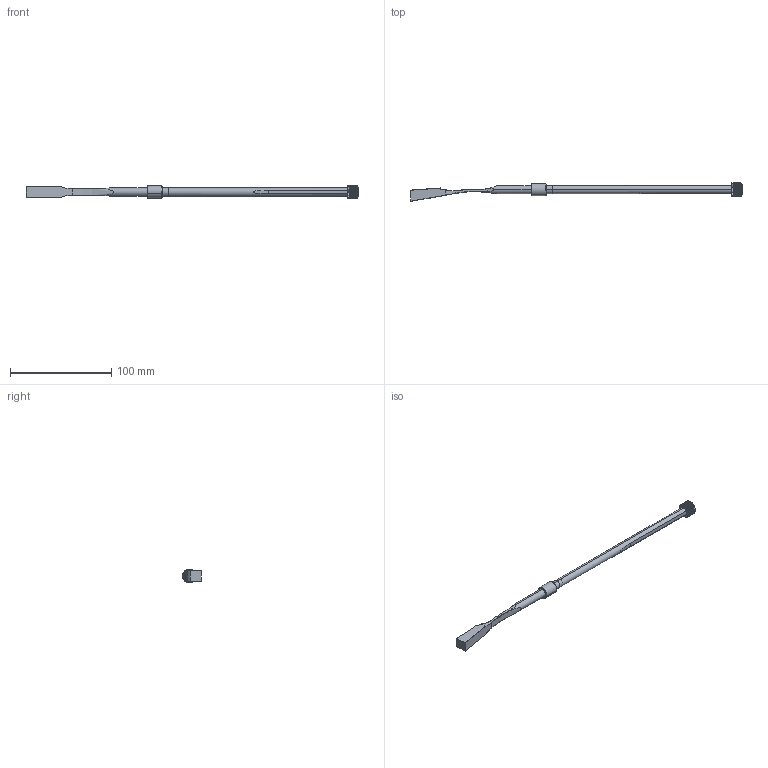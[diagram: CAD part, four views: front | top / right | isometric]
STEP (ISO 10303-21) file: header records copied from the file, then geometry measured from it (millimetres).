
FILE_DESCRIPTION (( 'STEP AP214' ), '1' );
FILE_NAME ('PX081030-325.Abierta.STEP', '2020-02-10T09:54:36', ( '' ), ( '' ), 'SwSTEP 2.0', 'SolidWorks 2018', '' );
FILE_SCHEMA (( 'AUTOMOTIVE_DESIGN' ));
Length unit declared in the file: millimetre
Products named in the file (8): 9CS081215; 9TP0810HX-1; 9AX080184 rectificado plano; JT ﾘ8X1,5; 9PX081030-325; 8PX081030 Rosca Mecha abierta; PX081030-325.Abierta; 9TP0810HX
Assembly tree (7 placements, depth 3):
  PX081030-325.Abierta
    9CS081215
    9TP0810HX
      9TP0810HX-1
      JT ﾘ8X1,5
    9PX081030-325
      9AX080184 rectificado plano
      8PX081030 Rosca Mecha abierta
Bounding box: 328.44 x 18.57 x 13.8 mm (x, y, z)
Volume: 18270.8 mm3; surface area: 11758.5 mm2
Topology: 5 solids, 5 shells, 398 faces, 1109 edges, 722 vertices
Faces by surface type: plane 210, cylinder 135, cone 31, torus 14, bspline 8
Entity records: 14154 total; most frequent: CARTESIAN_POINT 4180, ORIENTED_EDGE 2210, DIRECTION 1800, EDGE_CURVE 1105, VERTEX_POINT 722, AXIS2_PLACEMENT_3D 708, B_SPLINE_CURVE_WITH_KNOTS 411, EDGE_LOOP 409
